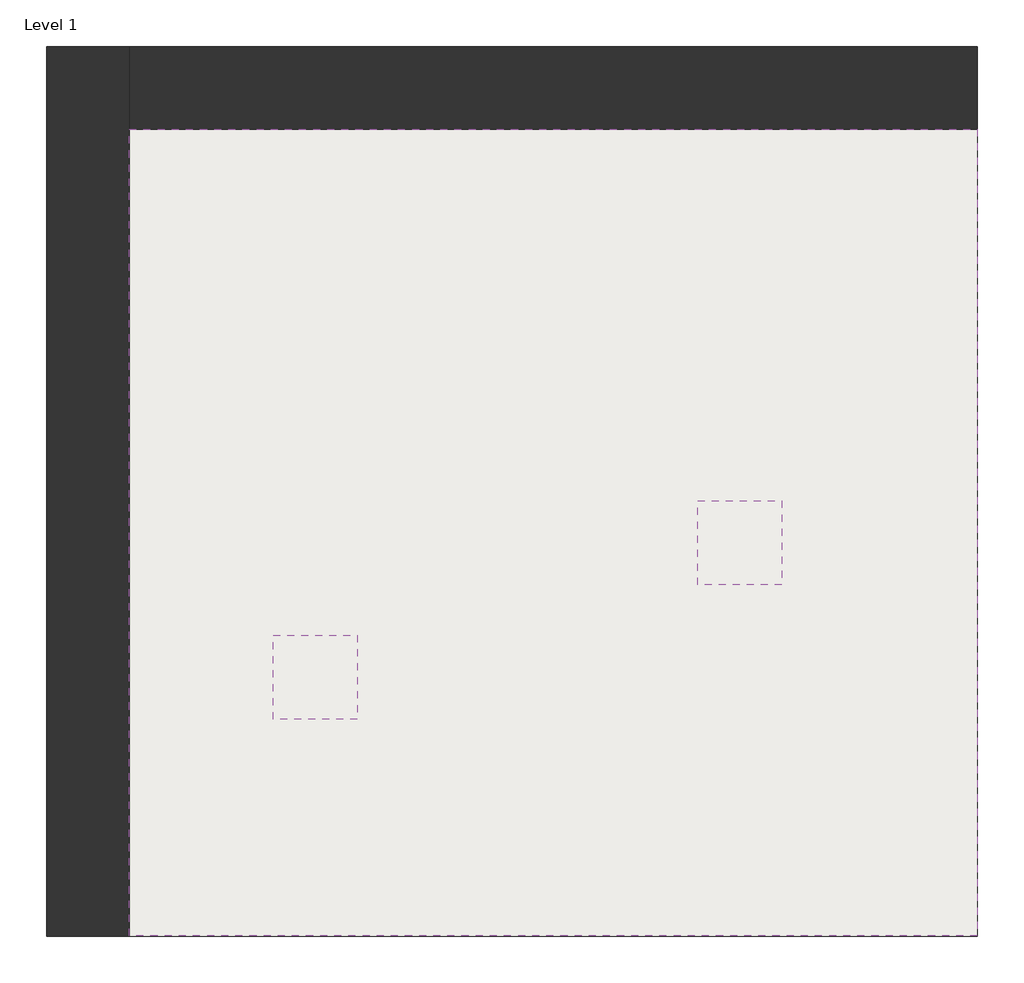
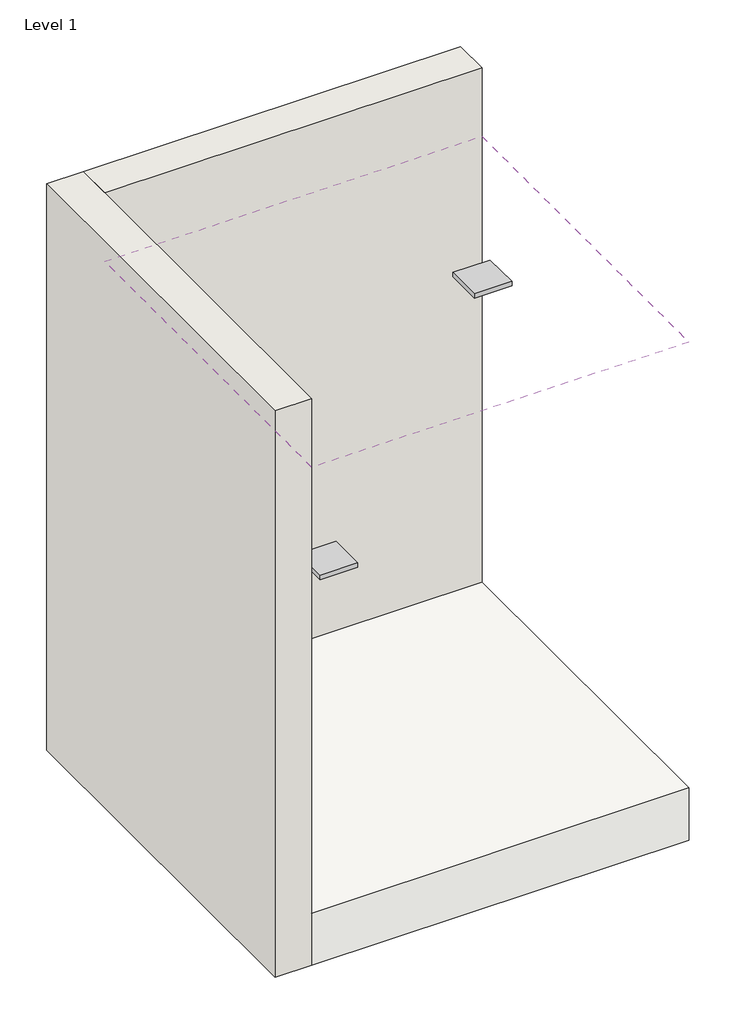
# One storey: 2 light fixtures, 2 walls, 1 covering, 1 slab.
"""IFC4 building model written with IfcOpenShell, lengths in millimetres."""

from ifc_helpers import new_model, si_unit, frame, origin, place, context, project, spatial, polyline, outline, extrude, faceted_brep, transform, mapped, element, save
from components import light_fixture_769c9deb

model = new_model("IFC4")

# Units and contexts
model_context = context("Model", 3, world=origin())
ifc_project = project(units=[si_unit("LENGTHUNIT", "METRE", prefix="MILLI")], contexts=[model_context])

# Site, building, storey
site = spatial("IfcSite", under=ifc_project)
building = spatial("IfcBuilding", under=site)
storey = spatial("IfcBuildingStorey", under=building, Name="Level 1", Elevation=0.0)

# Covering
placement = place(None, origin())
element("IfcCovering", 1, ObjectType="Ceiling 2", at=placement, inside=storey, context=model_context, shape_type="SweptSolid", body=[
    extrude(outline(polyline([(4291.0676417, 3741.7404022), (4291.0676417, 1760.5404022), (2208.2676417, 1760.5404022), (2208.2676417, 3741.7404022), (4291.0676417, 3741.7404022)])), frame((0.0, 0.0, 2600.0), z_axis=(0.0, 0.0, 1.0), x_axis=(1.0, 0.0, 0.0)), (0.0, 0.0, 1.0), 25.4),
])

# Light fixtures
light_fixture_shape = light_fixture_769c9deb(model_context)
element("IfcLightFixture", 2, ObjectType="LCMPD7Q_SURFACE MOUNT BASIC : LCMPD7QW-T30", at=placement, inside=storey, context=model_context, shape_type="MappedRepresentation", body=[
    mapped(light_fixture_shape, transform((3706.8676417, 2759.5396904, 2600.0), x_axis=(1.0, 0.0, 0.0), y_axis=(0.0, 1.0, 0.0), z_axis=(0.0, 0.0, 1.0))),
])
element("IfcLightFixture", 3, ObjectType="LCMPD7Q_SURFACE MOUNT BASIC : LCMPD7QW-T30", at=placement, inside=storey, context=model_context, shape_type="MappedRepresentation", body=[
    mapped(light_fixture_shape, transform((2665.4676417, 2429.3396904, 1524.0), x_axis=(1.0, 0.0, 0.0), y_axis=(0.0, 1.0, 0.0), z_axis=(0.0, 0.0, 1.0))),
])

# Slab
element("IfcSlab", 4, ObjectType="Floor 1", at=placement, inside=storey, context=model_context, shape_type="SweptSolid", body=[
    extrude(outline(polyline([(4291.0676417, 3741.7404022), (4291.0676417, 1760.5404022), (2208.2676417, 1760.5404022), (2208.2676417, 3741.7404022), (4291.0676417, 3741.7404022)])), frame((0.0, 0.0, -304.8), z_axis=(0.0, 0.0, 1.0), x_axis=(1.0, 0.0, 0.0)), (0.0, 0.0, 1.0), 304.8),
])

# Walls
element("IfcWall", 5, ObjectType="Wall 1", at=placement, inside=storey, context=model_context, shape_type="Brep", body=[
    faceted_brep([(2005.0676417, 3944.9404022, -304.8), (2005.0676417, 1760.5404022, -304.8), (2005.0676417, 1760.5404022, 3000.0), (2005.0676417, 3944.9404022, 3000.0), (2208.2676417, 3944.9404022, -304.8), (2208.2676417, 3944.9404022, 3000.0), (2208.2676417, 3741.7404022, 3000.0), (2208.2676417, 1760.5404022, 3000.0), (2208.2676417, 1760.5404022, -304.8), (2208.2676417, 3741.7404022, -304.8)], [[[0, 1, 2, 3]], [[4, 5, 6, 7, 8, 9]], [[1, 0, 4, 9, 8]], [[2, 1, 8, 7]], [[3, 2, 7, 6, 5]], [[0, 3, 5, 4]]]),
])
element("IfcWall", 6, ObjectType="Wall 1", at=placement, inside=storey, context=model_context, shape_type="SweptSolid", body=[
    extrude(outline(polyline([(4291.0676417, 3741.7404022), (2208.2676417, 3741.7404022), (2208.2676417, 3944.9404022), (4291.0676417, 3944.9404022), (4291.0676417, 3741.7404022)])), frame((0.0, 0.0, -304.8), z_axis=(0.0, 0.0, 1.0), x_axis=(1.0, 0.0, 0.0)), (0.0, 0.0, 1.0), 3304.8),
])

save(model, "model.ifc")
